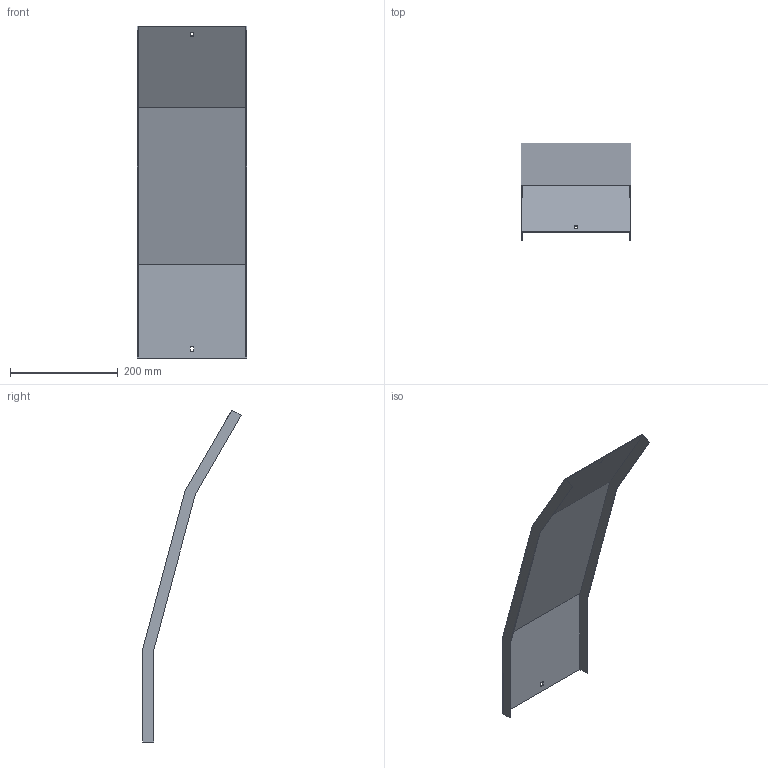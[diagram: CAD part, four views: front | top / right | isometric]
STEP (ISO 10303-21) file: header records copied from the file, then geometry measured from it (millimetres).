
FILE_DESCRIPTION (( 'STEP AP214' ), '1' );
FILE_NAME ('35N5F200.step', '2025-02-21T14:24:07', ( '' ), ( '' ), 'SwSTEP 2.0', 'SolidWorks 2023', '' );
FILE_SCHEMA (( 'AUTOMOTIVE_DESIGN' ));
Length unit declared in the file: millimetre
Products named in the file (1): 35N5F200
Bounding box: 203 x 182.13 x 615.07 mm (x, y, z)
Volume: 232861.6 mm3; surface area: 313210.4 mm2
Topology: 1 solids, 1 shells, 26 faces, 72 edges, 48 vertices
Faces by surface type: plane 26
Entity records: 847 total; most frequent: CARTESIAN_POINT 147, ORIENTED_EDGE 144, DIRECTION 126, LINE 72, EDGE_CURVE 72, VECTOR 72, VERTEX_POINT 48, EDGE_LOOP 30
